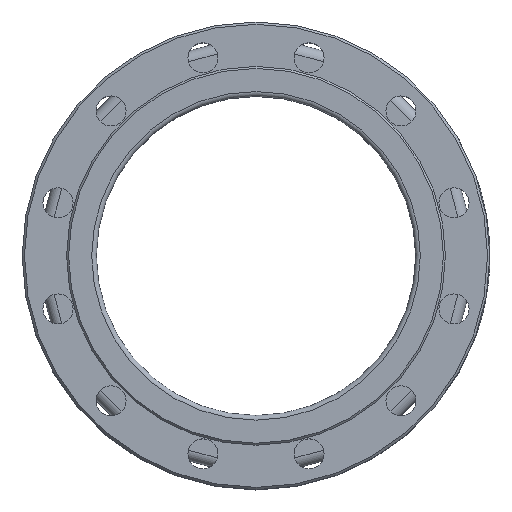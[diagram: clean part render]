
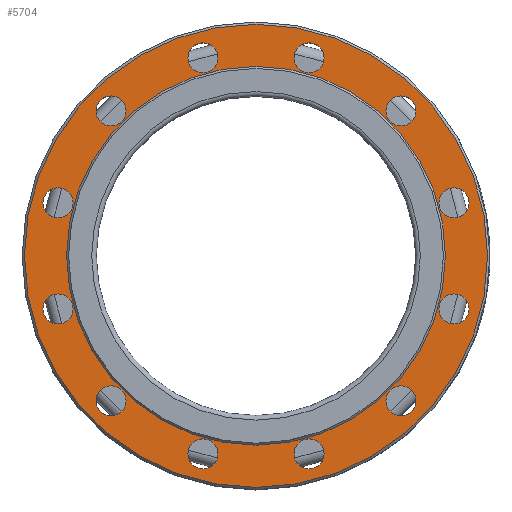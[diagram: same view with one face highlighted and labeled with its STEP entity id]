
A CAD part, top view. The second image highlights one B-rep face of the part: STEP entity #5704.
In plain terms, the highlighted planar face has unit normal (0, 0, 1).
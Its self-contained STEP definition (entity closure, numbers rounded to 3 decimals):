
#1143=FACE_BOUND('',#1784,.T.);
#1144=FACE_BOUND('',#1785,.T.);
#1145=FACE_BOUND('',#1786,.T.);
#1146=FACE_BOUND('',#1787,.T.);
#1147=FACE_BOUND('',#1788,.T.);
#1148=FACE_BOUND('',#1789,.T.);
#1149=FACE_BOUND('',#1790,.T.);
#1150=FACE_BOUND('',#1791,.T.);
#1151=FACE_BOUND('',#1792,.T.);
#1152=FACE_BOUND('',#1793,.T.);
#1153=FACE_BOUND('',#1794,.T.);
#1154=FACE_BOUND('',#1795,.T.);
#1155=FACE_BOUND('',#1796,.T.);
#1450=FACE_OUTER_BOUND('',#1783,.T.);
#1783=EDGE_LOOP('',(#4737));
#1784=EDGE_LOOP('',(#4738));
#1785=EDGE_LOOP('',(#4739));
#1786=EDGE_LOOP('',(#4740));
#1787=EDGE_LOOP('',(#4741));
#1788=EDGE_LOOP('',(#4742));
#1789=EDGE_LOOP('',(#4743));
#1790=EDGE_LOOP('',(#4744));
#1791=EDGE_LOOP('',(#4745));
#1792=EDGE_LOOP('',(#4746));
#1793=EDGE_LOOP('',(#4747));
#1794=EDGE_LOOP('',(#4748));
#1795=EDGE_LOOP('',(#4749));
#1796=EDGE_LOOP('',(#4750));
#2055=CIRCLE('',#6118,200.5);
#2056=CIRCLE('',#6121,164.);
#2057=CIRCLE('',#6122,13.);
#2058=CIRCLE('',#6123,13.);
#2059=CIRCLE('',#6124,13.);
#2060=CIRCLE('',#6125,13.);
#2061=CIRCLE('',#6126,13.);
#2062=CIRCLE('',#6127,13.);
#2063=CIRCLE('',#6128,13.);
#2064=CIRCLE('',#6129,13.);
#2065=CIRCLE('',#6130,13.);
#2066=CIRCLE('',#6131,13.);
#2067=CIRCLE('',#6132,13.);
#2068=CIRCLE('',#6133,13.);
#2597=VERTEX_POINT('',#12282);
#2598=VERTEX_POINT('',#12287);
#2599=VERTEX_POINT('',#12289);
#2600=VERTEX_POINT('',#12291);
#2601=VERTEX_POINT('',#12293);
#2602=VERTEX_POINT('',#12295);
#2603=VERTEX_POINT('',#12297);
#2604=VERTEX_POINT('',#12299);
#2605=VERTEX_POINT('',#12301);
#2606=VERTEX_POINT('',#12303);
#2607=VERTEX_POINT('',#12305);
#2608=VERTEX_POINT('',#12307);
#2609=VERTEX_POINT('',#12309);
#2610=VERTEX_POINT('',#12311);
#3323=EDGE_CURVE('',#2597,#2597,#2055,.T.);
#3325=EDGE_CURVE('',#2598,#2598,#2056,.T.);
#3326=EDGE_CURVE('',#2599,#2599,#2057,.T.);
#3327=EDGE_CURVE('',#2600,#2600,#2058,.T.);
#3328=EDGE_CURVE('',#2601,#2601,#2059,.T.);
#3329=EDGE_CURVE('',#2602,#2602,#2060,.T.);
#3330=EDGE_CURVE('',#2603,#2603,#2061,.T.);
#3331=EDGE_CURVE('',#2604,#2604,#2062,.T.);
#3332=EDGE_CURVE('',#2605,#2605,#2063,.T.);
#3333=EDGE_CURVE('',#2606,#2606,#2064,.T.);
#3334=EDGE_CURVE('',#2607,#2607,#2065,.T.);
#3335=EDGE_CURVE('',#2608,#2608,#2066,.T.);
#3336=EDGE_CURVE('',#2609,#2609,#2067,.T.);
#3337=EDGE_CURVE('',#2610,#2610,#2068,.T.);
#4737=ORIENTED_EDGE('',*,*,#3323,.T.);
#4738=ORIENTED_EDGE('',*,*,#3325,.T.);
#4739=ORIENTED_EDGE('',*,*,#3326,.F.);
#4740=ORIENTED_EDGE('',*,*,#3327,.F.);
#4741=ORIENTED_EDGE('',*,*,#3328,.F.);
#4742=ORIENTED_EDGE('',*,*,#3329,.F.);
#4743=ORIENTED_EDGE('',*,*,#3330,.F.);
#4744=ORIENTED_EDGE('',*,*,#3331,.F.);
#4745=ORIENTED_EDGE('',*,*,#3332,.F.);
#4746=ORIENTED_EDGE('',*,*,#3333,.F.);
#4747=ORIENTED_EDGE('',*,*,#3334,.F.);
#4748=ORIENTED_EDGE('',*,*,#3335,.F.);
#4749=ORIENTED_EDGE('',*,*,#3336,.F.);
#4750=ORIENTED_EDGE('',*,*,#3337,.F.);
#5066=PLANE('',#6120);
#5704=ADVANCED_FACE('',(#1450,#1143,#1144,#1145,#1146,#1147,#1148,#1149,
#1150,#1151,#1152,#1153,#1154,#1155),#5066,.F.);
#6118=AXIS2_PLACEMENT_3D('',#12283,#7250,#7251);
#6120=AXIS2_PLACEMENT_3D('',#12286,#7255,#7256);
#6121=AXIS2_PLACEMENT_3D('',#12288,#7257,#7258);
#6122=AXIS2_PLACEMENT_3D('',#12290,#7259,#7260);
#6123=AXIS2_PLACEMENT_3D('',#12292,#7261,#7262);
#6124=AXIS2_PLACEMENT_3D('',#12294,#7263,#7264);
#6125=AXIS2_PLACEMENT_3D('',#12296,#7265,#7266);
#6126=AXIS2_PLACEMENT_3D('',#12298,#7267,#7268);
#6127=AXIS2_PLACEMENT_3D('',#12300,#7269,#7270);
#6128=AXIS2_PLACEMENT_3D('',#12302,#7271,#7272);
#6129=AXIS2_PLACEMENT_3D('',#12304,#7273,#7274);
#6130=AXIS2_PLACEMENT_3D('',#12306,#7275,#7276);
#6131=AXIS2_PLACEMENT_3D('',#12308,#7277,#7278);
#6132=AXIS2_PLACEMENT_3D('',#12310,#7279,#7280);
#6133=AXIS2_PLACEMENT_3D('',#12312,#7281,#7282);
#7250=DIRECTION('center_axis',(0.,0.,1.));
#7251=DIRECTION('ref_axis',(0.,-1.,0.));
#7255=DIRECTION('center_axis',(0.,0.,-1.));
#7256=DIRECTION('ref_axis',(-1.,0.,0.));
#7257=DIRECTION('center_axis',(0.,0.,-1.));
#7258=DIRECTION('ref_axis',(1.,0.,0.));
#7259=DIRECTION('center_axis',(0.,0.,1.));
#7260=DIRECTION('ref_axis',(-1.,0.,0.));
#7261=DIRECTION('center_axis',(0.,0.,1.));
#7262=DIRECTION('ref_axis',(-1.,0.,0.));
#7263=DIRECTION('center_axis',(0.,0.,1.));
#7264=DIRECTION('ref_axis',(-1.,0.,0.));
#7265=DIRECTION('center_axis',(0.,0.,1.));
#7266=DIRECTION('ref_axis',(-1.,0.,0.));
#7267=DIRECTION('center_axis',(0.,0.,1.));
#7268=DIRECTION('ref_axis',(-1.,0.,0.));
#7269=DIRECTION('center_axis',(0.,0.,1.));
#7270=DIRECTION('ref_axis',(-1.,0.,0.));
#7271=DIRECTION('center_axis',(0.,0.,1.));
#7272=DIRECTION('ref_axis',(-1.,0.,0.));
#7273=DIRECTION('center_axis',(0.,0.,1.));
#7274=DIRECTION('ref_axis',(-1.,0.,0.));
#7275=DIRECTION('center_axis',(0.,0.,1.));
#7276=DIRECTION('ref_axis',(-1.,0.,0.));
#7277=DIRECTION('center_axis',(0.,0.,1.));
#7278=DIRECTION('ref_axis',(-1.,0.,0.));
#7279=DIRECTION('center_axis',(0.,0.,1.));
#7280=DIRECTION('ref_axis',(-1.,0.,0.));
#7281=DIRECTION('center_axis',(0.,0.,1.));
#7282=DIRECTION('ref_axis',(-1.,0.,0.));
#12282=CARTESIAN_POINT('',(0.,200.5,75.));
#12283=CARTESIAN_POINT('Origin',(0.,0.,75.));
#12286=CARTESIAN_POINT('Origin',(0.,138.25,75.));
#12287=CARTESIAN_POINT('',(-164.,0.,75.));
#12288=CARTESIAN_POINT('Origin',(0.,0.,75.));
#12289=CARTESIAN_POINT('',(-112.511,-125.511,75.));
#12290=CARTESIAN_POINT('Origin',(-125.511,-125.511,75.));
#12291=CARTESIAN_POINT('',(58.94,-171.452,75.));
#12292=CARTESIAN_POINT('Origin',(45.94,-171.452,75.));
#12293=CARTESIAN_POINT('',(138.511,125.511,75.));
#12294=CARTESIAN_POINT('Origin',(125.511,125.511,75.));
#12295=CARTESIAN_POINT('',(-112.511,125.511,75.));
#12296=CARTESIAN_POINT('Origin',(-125.511,125.511,75.));
#12297=CARTESIAN_POINT('',(-32.94,171.452,75.));
#12298=CARTESIAN_POINT('Origin',(-45.94,171.452,75.));
#12299=CARTESIAN_POINT('',(138.511,-125.511,75.));
#12300=CARTESIAN_POINT('Origin',(125.511,-125.511,75.));
#12301=CARTESIAN_POINT('',(-158.452,-45.94,75.));
#12302=CARTESIAN_POINT('Origin',(-171.452,-45.94,75.));
#12303=CARTESIAN_POINT('',(-32.94,-171.452,75.));
#12304=CARTESIAN_POINT('Origin',(-45.94,-171.452,75.));
#12305=CARTESIAN_POINT('',(184.452,45.94,75.));
#12306=CARTESIAN_POINT('Origin',(171.452,45.94,75.));
#12307=CARTESIAN_POINT('',(-158.452,45.94,75.));
#12308=CARTESIAN_POINT('Origin',(-171.452,45.94,75.));
#12309=CARTESIAN_POINT('',(58.94,171.452,75.));
#12310=CARTESIAN_POINT('Origin',(45.94,171.452,75.));
#12311=CARTESIAN_POINT('',(184.452,-45.94,75.));
#12312=CARTESIAN_POINT('Origin',(171.452,-45.94,75.));
